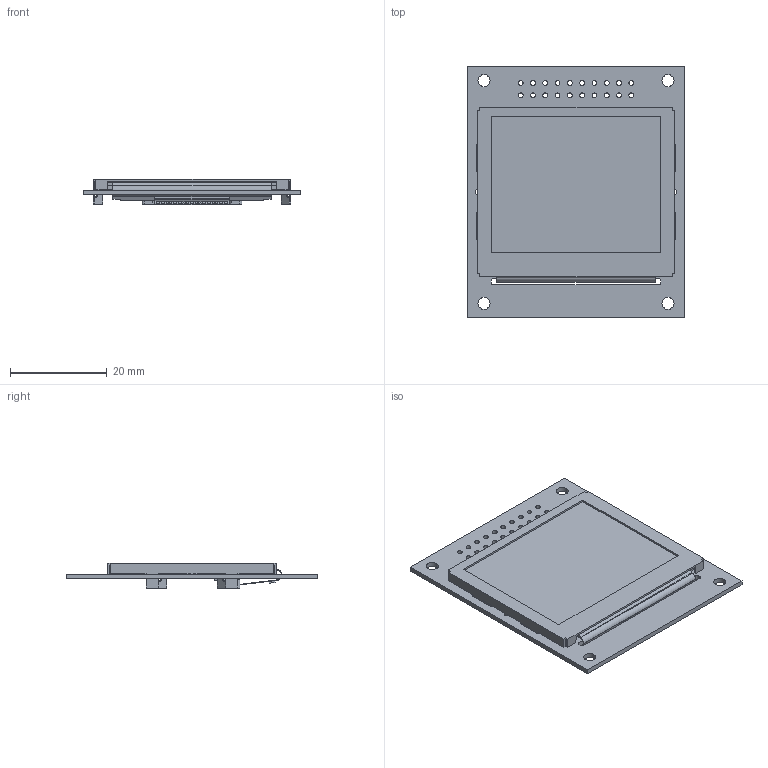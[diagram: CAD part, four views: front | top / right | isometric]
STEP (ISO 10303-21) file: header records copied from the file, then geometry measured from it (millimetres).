
FILE_DESCRIPTION (( 'STEP AP203' ), '1' );
FILE_NAME ('NHD-1.69-160128UBC3.STEP', '2023-04-20T21:33:53', ( '' ), ( '' ), 'SwSTEP 2.0', 'SolidWorks 2019', '' );
FILE_SCHEMA (( 'CONFIG_CONTROL_DESIGN' ));
Length unit declared in the file: millimetre
Products named in the file (4): NHD-1.69-Bezel; NHD-1.69-160128B; NHD-1.69B-PCB_Rev1A with J1; NHD-1.69-160128UBC3
Assembly tree (3 placements, depth 2):
  NHD-1.69-160128UBC3
    NHD-1.69B-PCB_Rev1A with J1
    NHD-1.69-160128B
    NHD-1.69-Bezel
Bounding box: 45 x 52 x 5.22 mm (x, y, z)
Volume: 2438.5 mm3; surface area: 16355 mm2
Topology: 7 solids, 120 shells, 3799 faces, 12479 edges, 8363 vertices
Faces by surface type: plane 2411, cylinder 1360, bspline 28
Entity records: 140101 total; most frequent: CARTESIAN_POINT 34342, ORIENTED_EDGE 24125, DIRECTION 18844, EDGE_CURVE 12473, VERTEX_POINT 8361, VECTOR 8010, LINE 8010, AXIS2_PLACEMENT_3D 5417
